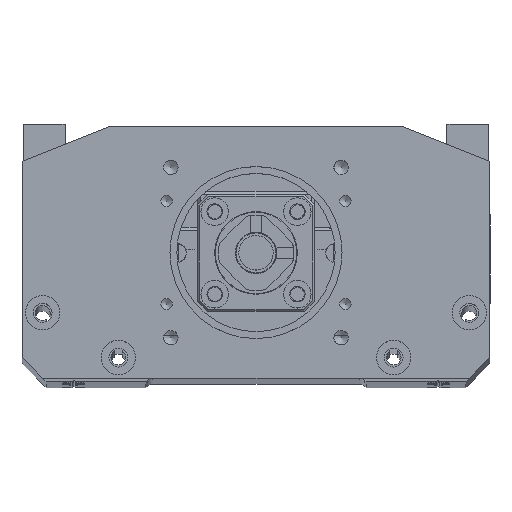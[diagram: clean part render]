
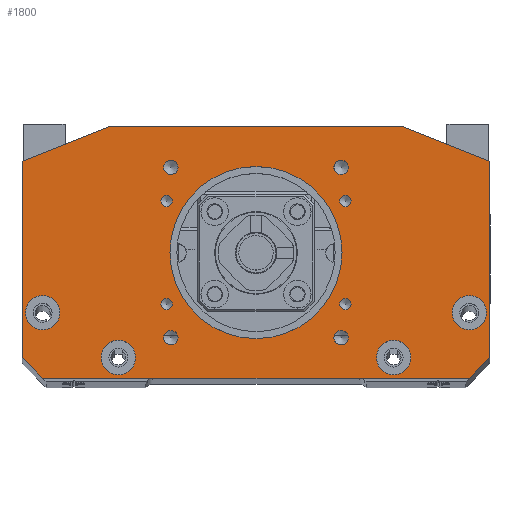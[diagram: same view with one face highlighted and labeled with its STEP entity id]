
A CAD part, top view. The second image highlights one B-rep face of the part: STEP entity #1800.
In plain terms, the highlighted planar face has unit normal (0, 0, 1).
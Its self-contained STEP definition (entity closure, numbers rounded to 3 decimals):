
#390=FACE_BOUND('',#3608,.T.);
#391=FACE_BOUND('',#3609,.T.);
#392=FACE_BOUND('',#3610,.T.);
#393=FACE_BOUND('',#3611,.T.);
#394=FACE_BOUND('',#3612,.T.);
#395=FACE_BOUND('',#3613,.T.);
#396=FACE_BOUND('',#3614,.T.);
#397=FACE_BOUND('',#3615,.T.);
#398=FACE_BOUND('',#3616,.T.);
#399=FACE_BOUND('',#3617,.T.);
#400=FACE_BOUND('',#3618,.T.);
#401=FACE_BOUND('',#3619,.T.);
#402=FACE_BOUND('',#3620,.T.);
#403=FACE_BOUND('',#3621,.T.);
#1800=ADVANCED_FACE('9',(#390,#391,#392,#393,#394,#395,#396,#397,#398,#399,
#400,#401,#402,#403),#2460,.T.);
#2460=PLANE('',#15215);
#3608=EDGE_LOOP('',(#6752));
#3609=EDGE_LOOP('',(#6753));
#3610=EDGE_LOOP('',(#6754));
#3611=EDGE_LOOP('',(#6755));
#3612=EDGE_LOOP('',(#6756));
#3613=EDGE_LOOP('',(#6757));
#3614=EDGE_LOOP('',(#6758));
#3615=EDGE_LOOP('',(#6759));
#3616=EDGE_LOOP('',(#6760));
#3617=EDGE_LOOP('',(#6761));
#3618=EDGE_LOOP('',(#6762));
#3619=EDGE_LOOP('',(#6763));
#3620=EDGE_LOOP('',(#6764));
#3621=EDGE_LOOP('',(#6765,#6766,#6767,#6768,#6769,#6770,#6771,#6772));
#4812=CIRCLE('',#15153,1.65);
#4814=CIRCLE('',#15157,1.65);
#4816=CIRCLE('',#15161,1.65);
#4818=CIRCLE('',#15165,1.65);
#4820=CIRCLE('',#15169,2.1);
#4822=CIRCLE('',#15173,2.1);
#4824=CIRCLE('',#15177,2.1);
#4826=CIRCLE('',#15181,2.1);
#4828=CIRCLE('',#15185,25.);
#4830=CIRCLE('',#15188,5.);
#4834=CIRCLE('',#15194,5.);
#4838=CIRCLE('',#15200,5.);
#4842=CIRCLE('',#15206,5.);
#6752=ORIENTED_EDGE('',*,*,#11589,.F.);
#6753=ORIENTED_EDGE('',*,*,#11591,.F.);
#6754=ORIENTED_EDGE('',*,*,#11593,.F.);
#6755=ORIENTED_EDGE('',*,*,#11595,.F.);
#6756=ORIENTED_EDGE('',*,*,#11597,.F.);
#6757=ORIENTED_EDGE('',*,*,#11599,.F.);
#6758=ORIENTED_EDGE('',*,*,#11601,.F.);
#6759=ORIENTED_EDGE('',*,*,#11603,.F.);
#6760=ORIENTED_EDGE('',*,*,#11605,.F.);
#6761=ORIENTED_EDGE('',*,*,#11607,.F.);
#6762=ORIENTED_EDGE('',*,*,#11611,.F.);
#6763=ORIENTED_EDGE('',*,*,#11615,.F.);
#6764=ORIENTED_EDGE('',*,*,#11619,.F.);
#6765=ORIENTED_EDGE('',*,*,#10961,.F.);
#6766=ORIENTED_EDGE('',*,*,#11628,.T.);
#6767=ORIENTED_EDGE('',*,*,#11627,.F.);
#6768=ORIENTED_EDGE('',*,*,#11629,.T.);
#6769=ORIENTED_EDGE('',*,*,#11031,.F.);
#6770=ORIENTED_EDGE('',*,*,#11016,.T.);
#6771=ORIENTED_EDGE('',*,*,#11002,.F.);
#6772=ORIENTED_EDGE('',*,*,#10987,.T.);
#9483=VERTEX_POINT('',#21193);
#9484=VERTEX_POINT('',#21195);
#9501=VERTEX_POINT('',#21240);
#9511=VERTEX_POINT('',#21268);
#9519=VERTEX_POINT('',#21293);
#9527=VERTEX_POINT('',#21318);
#9897=VERTEX_POINT('',#23592);
#9900=VERTEX_POINT('',#23599);
#9903=VERTEX_POINT('',#23606);
#9906=VERTEX_POINT('',#23613);
#9909=VERTEX_POINT('',#23620);
#9912=VERTEX_POINT('',#23627);
#9915=VERTEX_POINT('',#23634);
#9918=VERTEX_POINT('',#23641);
#9921=VERTEX_POINT('',#23648);
#9923=VERTEX_POINT('',#23653);
#9926=VERTEX_POINT('',#23662);
#9929=VERTEX_POINT('',#23671);
#9932=VERTEX_POINT('',#23680);
#9936=VERTEX_POINT('',#23692);
#9938=VERTEX_POINT('',#23696);
#10961=EDGE_CURVE('',#9483,#9484,#12775,.T.);
#10987=EDGE_CURVE('',#9501,#9484,#12799,.T.);
#11002=EDGE_CURVE('',#9501,#9511,#12812,.T.);
#11016=EDGE_CURVE('',#9519,#9511,#12824,.T.);
#11031=EDGE_CURVE('',#9519,#9527,#12837,.T.);
#11589=EDGE_CURVE('',#9897,#9897,#4812,.T.);
#11591=EDGE_CURVE('',#9900,#9900,#4814,.T.);
#11593=EDGE_CURVE('',#9903,#9903,#4816,.T.);
#11595=EDGE_CURVE('',#9906,#9906,#4818,.T.);
#11597=EDGE_CURVE('',#9909,#9909,#4820,.T.);
#11599=EDGE_CURVE('',#9912,#9912,#4822,.T.);
#11601=EDGE_CURVE('',#9915,#9915,#4824,.T.);
#11603=EDGE_CURVE('',#9918,#9918,#4826,.T.);
#11605=EDGE_CURVE('',#9921,#9921,#4828,.T.);
#11607=EDGE_CURVE('',#9923,#9923,#4830,.T.);
#11611=EDGE_CURVE('',#9926,#9926,#4834,.T.);
#11615=EDGE_CURVE('',#9929,#9929,#4838,.T.);
#11619=EDGE_CURVE('',#9932,#9932,#4842,.T.);
#11627=EDGE_CURVE('',#9938,#9936,#13108,.T.);
#11628=EDGE_CURVE('',#9483,#9936,#13109,.T.);
#11629=EDGE_CURVE('',#9938,#9527,#13110,.T.);
#12775=LINE('',#21194,#13772);
#12799=LINE('',#21239,#13796);
#12812=LINE('',#21267,#13809);
#12824=LINE('',#21292,#13821);
#12837=LINE('',#21317,#13834);
#13108=LINE('',#23697,#14105);
#13109=LINE('',#23699,#14106);
#13110=LINE('',#23700,#14107);
#13772=VECTOR('',#16808,1.);
#13796=VECTOR('',#16840,1.);
#13809=VECTOR('',#16863,1.);
#13821=VECTOR('',#16885,1.);
#13834=VECTOR('',#16906,1.);
#14105=VECTOR('',#18035,1.);
#14106=VECTOR('',#18038,1.);
#14107=VECTOR('',#18039,1.);
#15153=AXIS2_PLACEMENT_3D('',#23591,#17910,#17911);
#15157=AXIS2_PLACEMENT_3D('',#23598,#17918,#17919);
#15161=AXIS2_PLACEMENT_3D('',#23605,#17926,#17927);
#15165=AXIS2_PLACEMENT_3D('',#23612,#17934,#17935);
#15169=AXIS2_PLACEMENT_3D('',#23619,#17942,#17943);
#15173=AXIS2_PLACEMENT_3D('',#23626,#17950,#17951);
#15177=AXIS2_PLACEMENT_3D('',#23633,#17958,#17959);
#15181=AXIS2_PLACEMENT_3D('',#23640,#17966,#17967);
#15185=AXIS2_PLACEMENT_3D('',#23647,#17974,#17975);
#15188=AXIS2_PLACEMENT_3D('',#23652,#17980,#17981);
#15194=AXIS2_PLACEMENT_3D('',#23661,#17992,#17993);
#15200=AXIS2_PLACEMENT_3D('',#23670,#18004,#18005);
#15206=AXIS2_PLACEMENT_3D('',#23679,#18016,#18017);
#15215=AXIS2_PLACEMENT_3D('',#23701,#18040,#18041);
#16808=DIRECTION('',(0.,-1.,0.));
#16840=DIRECTION('',(0.707,0.707,0.));
#16863=DIRECTION('',(-1.,0.,0.));
#16885=DIRECTION('',(0.707,-0.707,0.));
#16906=DIRECTION('',(0.,1.,0.));
#17910=DIRECTION('',(0.,0.,1.));
#17911=DIRECTION('',(1.,0.,0.));
#17918=DIRECTION('',(0.,0.,1.));
#17919=DIRECTION('',(1.,0.,0.));
#17926=DIRECTION('',(0.,0.,1.));
#17927=DIRECTION('',(1.,0.,0.));
#17934=DIRECTION('',(0.,0.,1.));
#17935=DIRECTION('',(1.,0.,0.));
#17942=DIRECTION('',(0.,0.,1.));
#17943=DIRECTION('',(1.,0.,0.));
#17950=DIRECTION('',(0.,0.,1.));
#17951=DIRECTION('',(1.,0.,0.));
#17958=DIRECTION('',(0.,0.,1.));
#17959=DIRECTION('',(1.,0.,0.));
#17966=DIRECTION('',(0.,0.,1.));
#17967=DIRECTION('',(1.,0.,0.));
#17974=DIRECTION('',(0.,0.,1.));
#17975=DIRECTION('',(1.,0.,0.));
#17980=DIRECTION('',(0.,0.,1.));
#17981=DIRECTION('',(1.,0.,0.));
#17992=DIRECTION('',(0.,0.,1.));
#17993=DIRECTION('',(1.,0.,0.));
#18004=DIRECTION('',(0.,0.,1.));
#18005=DIRECTION('',(1.,0.,0.));
#18016=DIRECTION('',(0.,0.,1.));
#18017=DIRECTION('',(1.,0.,0.));
#18035=DIRECTION('',(1.,0.,0.));
#18038=DIRECTION('',(-0.928,0.371,0.));
#18039=DIRECTION('',(-0.928,-0.371,0.));
#18040=DIRECTION('',(0.,0.,1.));
#18041=DIRECTION('',(-1.,0.,0.));
#21193=CARTESIAN_POINT('',(68.,63.,180.));
#21194=CARTESIAN_POINT('',(68.,0.,180.));
#21195=CARTESIAN_POINT('',(68.,6.,180.));
#21239=CARTESIAN_POINT('',(49.25,-12.75,180.));
#21240=CARTESIAN_POINT('',(62.,0.,180.));
#21267=CARTESIAN_POINT('',(68.,0.,180.));
#21268=CARTESIAN_POINT('',(-62.,0.,180.));
#21292=CARTESIAN_POINT('',(-49.25,-12.75,180.));
#21293=CARTESIAN_POINT('',(-68.,6.,180.));
#21317=CARTESIAN_POINT('',(-68.,0.,180.));
#21318=CARTESIAN_POINT('',(-68.,63.,180.));
#23591=CARTESIAN_POINT('',(25.981,51.5,180.));
#23592=CARTESIAN_POINT('',(27.631,51.5,180.));
#23598=CARTESIAN_POINT('',(25.981,21.5,180.));
#23599=CARTESIAN_POINT('',(27.631,21.5,180.));
#23605=CARTESIAN_POINT('',(-25.981,21.5,180.));
#23606=CARTESIAN_POINT('',(-24.331,21.5,180.));
#23612=CARTESIAN_POINT('',(-25.981,51.5,180.));
#23613=CARTESIAN_POINT('',(-24.331,51.5,180.));
#23619=CARTESIAN_POINT('',(-24.749,61.249,180.));
#23620=CARTESIAN_POINT('',(-22.649,61.249,180.));
#23626=CARTESIAN_POINT('',(24.749,61.249,180.));
#23627=CARTESIAN_POINT('',(26.849,61.249,180.));
#23633=CARTESIAN_POINT('',(24.749,11.751,180.));
#23634=CARTESIAN_POINT('',(26.849,11.751,180.));
#23640=CARTESIAN_POINT('',(-24.749,11.751,180.));
#23641=CARTESIAN_POINT('',(-22.649,11.751,180.));
#23647=CARTESIAN_POINT('',(0.,36.5,180.));
#23648=CARTESIAN_POINT('',(25.,36.5,180.));
#23652=CARTESIAN_POINT('',(-62.,19.,180.));
#23653=CARTESIAN_POINT('',(-57.,19.,180.));
#23661=CARTESIAN_POINT('',(62.,19.,180.));
#23662=CARTESIAN_POINT('',(67.,19.,180.));
#23670=CARTESIAN_POINT('',(-40.,6.,180.));
#23671=CARTESIAN_POINT('',(-35.,6.,180.));
#23679=CARTESIAN_POINT('',(40.,6.,180.));
#23680=CARTESIAN_POINT('',(45.,6.,180.));
#23692=CARTESIAN_POINT('',(43.,73.,180.));
#23696=CARTESIAN_POINT('',(-43.,73.,180.));
#23697=CARTESIAN_POINT('',(68.,73.,180.));
#23699=CARTESIAN_POINT('',(18.517,82.793,180.));
#23700=CARTESIAN_POINT('',(-18.517,82.793,180.));
#23701=CARTESIAN_POINT('',(0.,36.5,180.));
